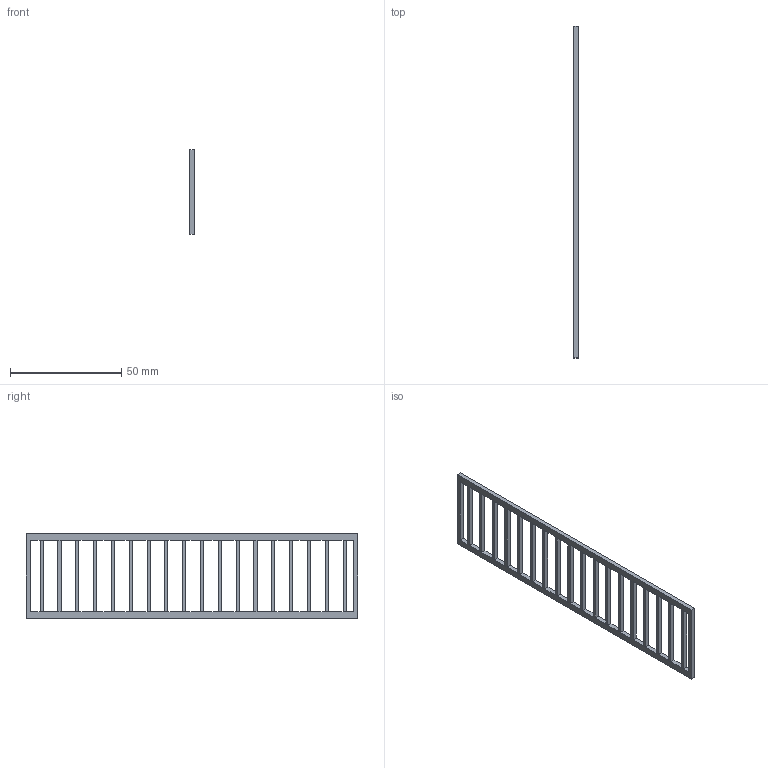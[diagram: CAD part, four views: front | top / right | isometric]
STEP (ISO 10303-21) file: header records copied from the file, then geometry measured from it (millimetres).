
FILE_DESCRIPTION(('Open CASCADE Model'),'2;1');
FILE_NAME('Open CASCADE Shape Model','2026-11-03T04:29:36',('Author'),( 'Open CASCADE'),'Open CASCADE STEP processor 7.8','Open CASCADE 7.8' ,'Unknown');
FILE_SCHEMA(('AUTOMOTIVE_DESIGN { 1 0 10303 214 1 1 1 1 }'));
Length unit declared in the file: millimetre
Products named in the file (1): Open CASCADE STEP translator 7.8 44
Bounding box: 2 x 149 x 38 mm (x, y, z)
Volume: 3656.8 mm3; surface area: 7316 mm2
Topology: 1 solids, 1 shells, 118 faces, 312 edges, 160 vertices
Faces by surface type: plane 118
Entity records: 7526 total; most frequent: CARTESIAN_POINT 1215, DIRECTION 1174, LINE 936, VECTOR 936, ORIENTED_EDGE 624, PCURVE 624, DEFINITIONAL_REPRESENTATION 624, EDGE_CURVE 312
